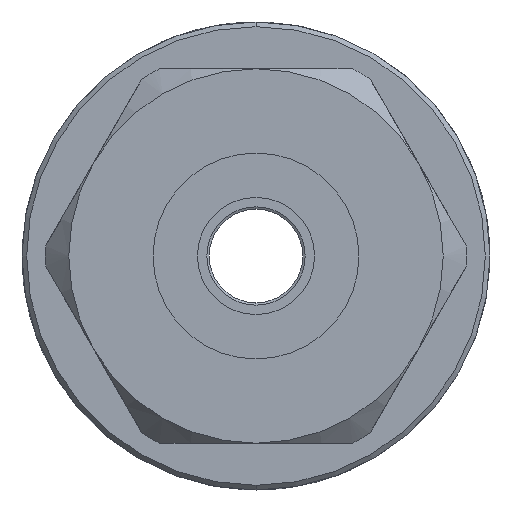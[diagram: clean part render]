
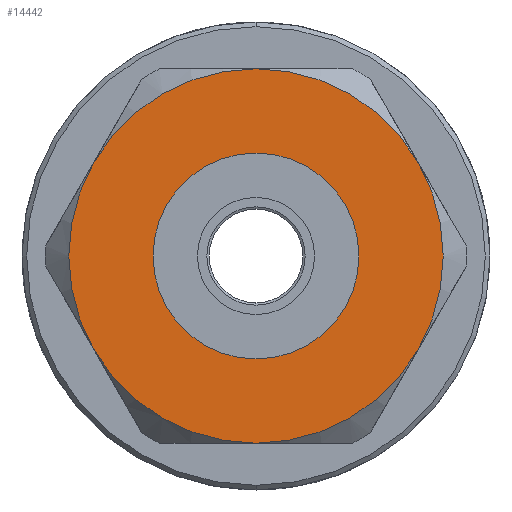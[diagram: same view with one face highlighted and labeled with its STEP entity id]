
A CAD part, front view. The second image highlights one B-rep face of the part: STEP entity #14442.
In plain terms, the highlighted planar face has unit normal (0, -1, 0).
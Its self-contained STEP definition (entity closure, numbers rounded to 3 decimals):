
#139 = DIRECTION ( 'NONE',  ( 0., -1., 0. ) ) ;
#271 = CARTESIAN_POINT ( 'NONE',  ( -2.425, -45.626, 45. ) ) ;
#725 = VERTEX_POINT ( 'NONE', #16240 ) ;
#1883 = ORIENTED_EDGE ( 'NONE', *, *, #4638, .T. ) ;
#2174 = CARTESIAN_POINT ( 'NONE',  ( -20.412, -45.626, 46.037 ) ) ;
#2261 = EDGE_LOOP ( 'NONE', ( #10891, #13106 ) ) ;
#2557 = DIRECTION ( 'NONE',  ( 0., -1., 0. ) ) ;
#2783 = CARTESIAN_POINT ( 'NONE',  ( -9.353, -45.626, 49. ) ) ;
#2816 = CARTESIAN_POINT ( 'NONE',  ( -9.353, -45.626, 49. ) ) ;
#3028 = CIRCLE ( 'NONE', #3758, 8. ) ;
#3419 = DIRECTION ( 'NONE',  ( 0.866, 0., -0.5 ) ) ;
#3539 = CARTESIAN_POINT ( 'NONE',  ( -9.353, -45.626, 49. ) ) ;
#3660 = CIRCLE ( 'NONE', #14804, 4.4 ) ;
#3715 = CIRCLE ( 'NONE', #13920, 8. ) ;
#3758 = AXIS2_PLACEMENT_3D ( 'NONE', #2783, #11548, #4050 ) ;
#3856 = CARTESIAN_POINT ( 'NONE',  ( -9.353, -45.626, 49. ) ) ;
#3868 = CIRCLE ( 'NONE', #14156, 4.4 ) ;
#4031 = AXIS2_PLACEMENT_3D ( 'NONE', #3539, #12322, #4774 ) ;
#4050 = DIRECTION ( 'NONE',  ( -0.866, 0., 0.5 ) ) ;
#4081 = DIRECTION ( 'NONE',  ( -0.866, 0., 0.5 ) ) ;
#4105 = VERTEX_POINT ( 'NONE', #6330 ) ;
#4366 = VERTEX_POINT ( 'NONE', #14315 ) ;
#4493 = ORIENTED_EDGE ( 'NONE', *, *, #5915, .T. ) ;
#4638 = EDGE_CURVE ( 'NONE', #6616, #7333, #11141, .T. ) ;
#4764 = AXIS2_PLACEMENT_3D ( 'NONE', #2816, #11579, #4081 ) ;
#4774 = DIRECTION ( 'NONE',  ( -0.866, 0., 0.5 ) ) ;
#4997 = CARTESIAN_POINT ( 'NONE',  ( -9.353, -45.626, 49. ) ) ;
#5083 = DIRECTION ( 'NONE',  ( -0.5, 0., -0.866 ) ) ;
#5220 = ORIENTED_EDGE ( 'NONE', *, *, #13985, .T. ) ;
#5242 = FACE_OUTER_BOUND ( 'NONE', #8840, .T. ) ;
#5632 = EDGE_CURVE ( 'NONE', #725, #14899, #3660, .T. ) ;
#5808 = AXIS2_PLACEMENT_3D ( 'NONE', #2174, #10914, #3419 ) ;
#5915 = EDGE_CURVE ( 'NONE', #4366, #4105, #3028, .T. ) ;
#6259 = DIRECTION ( 'NONE',  ( -0.866, 0., 0.5 ) ) ;
#6327 = VERTEX_POINT ( 'NONE', #11954 ) ;
#6330 = CARTESIAN_POINT ( 'NONE',  ( -16.281, -45.626, 45. ) ) ;
#6616 = VERTEX_POINT ( 'NONE', #9693 ) ;
#6773 = CIRCLE ( 'NONE', #4031, 8. ) ;
#7181 = CIRCLE ( 'NONE', #13325, 8. ) ;
#7333 = VERTEX_POINT ( 'NONE', #271 ) ;
#7337 = DIRECTION ( 'NONE',  ( 0., 1., 0. ) ) ;
#7555 = ORIENTED_EDGE ( 'NONE', *, *, #7942, .T. ) ;
#7610 = CARTESIAN_POINT ( 'NONE',  ( -9.353, -45.626, 49. ) ) ;
#7942 = EDGE_CURVE ( 'NONE', #8531, #6327, #6773, .T. ) ;
#8531 = VERTEX_POINT ( 'NONE', #11345 ) ;
#8840 = EDGE_LOOP ( 'NONE', ( #7555, #5220, #4493, #15005, #1883, #13091 ) ) ;
#8896 = DIRECTION ( 'NONE',  ( -0.866, 0., 0.5 ) ) ;
#8991 = FACE_BOUND ( 'NONE', #2261, .T. ) ;
#9554 = PLANE ( 'NONE',  #5808 ) ;
#9693 = CARTESIAN_POINT ( 'NONE',  ( -9.353, -45.626, 41. ) ) ;
#10043 = CARTESIAN_POINT ( 'NONE',  ( -9.353, -45.626, 49. ) ) ;
#10175 = CARTESIAN_POINT ( 'NONE',  ( -7.153, -45.626, 52.811 ) ) ;
#10356 = CIRCLE ( 'NONE', #14749, 8. ) ;
#10891 = ORIENTED_EDGE ( 'NONE', *, *, #5632, .T. ) ;
#10914 = DIRECTION ( 'NONE',  ( 0., -1., 0. ) ) ;
#11141 = CIRCLE ( 'NONE', #4764, 8. ) ;
#11304 = DIRECTION ( 'NONE',  ( -0.866, 0., 0.5 ) ) ;
#11345 = CARTESIAN_POINT ( 'NONE',  ( -2.425, -45.626, 53. ) ) ;
#11548 = DIRECTION ( 'NONE',  ( 0., -1., 0. ) ) ;
#11579 = DIRECTION ( 'NONE',  ( 0., -1., 0. ) ) ;
#11954 = CARTESIAN_POINT ( 'NONE',  ( -9.353, -45.626, 57. ) ) ;
#12322 = DIRECTION ( 'NONE',  ( 0., -1., 0. ) ) ;
#12626 = DIRECTION ( 'NONE',  ( 0., 1., 0. ) ) ;
#13091 = ORIENTED_EDGE ( 'NONE', *, *, #14815, .T. ) ;
#13106 = ORIENTED_EDGE ( 'NONE', *, *, #14807, .T. ) ;
#13325 = AXIS2_PLACEMENT_3D ( 'NONE', #7610, #139, #8896 ) ;
#13820 = DIRECTION ( 'NONE',  ( 0., -1., 0. ) ) ;
#13920 = AXIS2_PLACEMENT_3D ( 'NONE', #4997, #13820, #6259 ) ;
#13985 = EDGE_CURVE ( 'NONE', #6327, #4366, #3715, .T. ) ;
#14081 = EDGE_CURVE ( 'NONE', #4105, #6616, #10356, .T. ) ;
#14156 = AXIS2_PLACEMENT_3D ( 'NONE', #3856, #12626, #5083 ) ;
#14315 = CARTESIAN_POINT ( 'NONE',  ( -16.281, -45.626, 53. ) ) ;
#14442 = ADVANCED_FACE ( 'NONE', ( #8991, #5242 ), #9554, .T. ) ;
#14749 = AXIS2_PLACEMENT_3D ( 'NONE', #10043, #2557, #11304 ) ;
#14804 = AXIS2_PLACEMENT_3D ( 'NONE', #14882, #7337, #16168 ) ;
#14807 = EDGE_CURVE ( 'NONE', #14899, #725, #3868, .T. ) ;
#14815 = EDGE_CURVE ( 'NONE', #7333, #8531, #7181, .T. ) ;
#14882 = CARTESIAN_POINT ( 'NONE',  ( -9.353, -45.626, 49. ) ) ;
#14899 = VERTEX_POINT ( 'NONE', #10175 ) ;
#15005 = ORIENTED_EDGE ( 'NONE', *, *, #14081, .T. ) ;
#16168 = DIRECTION ( 'NONE',  ( -0.5, 0., -0.866 ) ) ;
#16240 = CARTESIAN_POINT ( 'NONE',  ( -11.553, -45.626, 45.189 ) ) ;
